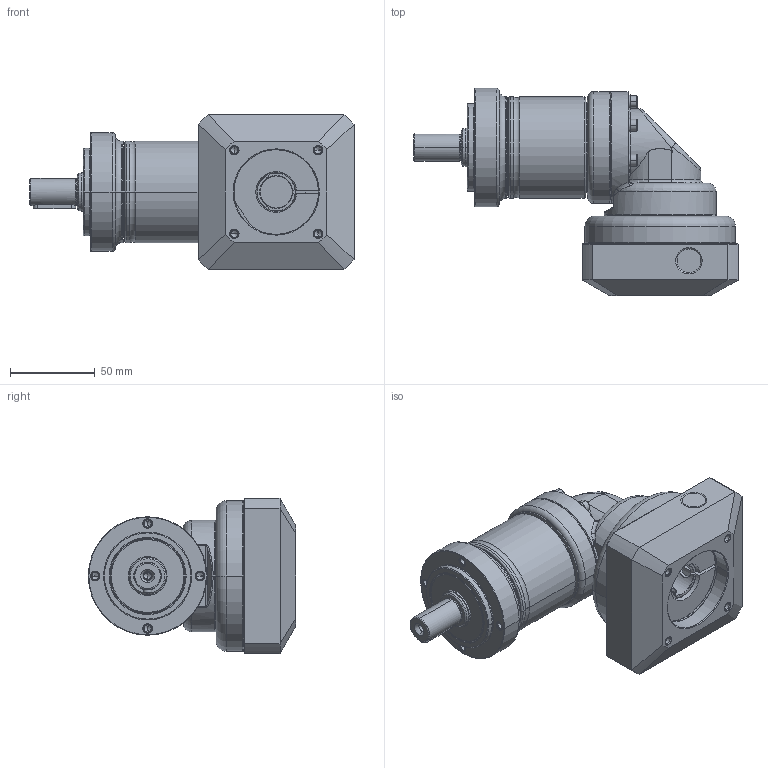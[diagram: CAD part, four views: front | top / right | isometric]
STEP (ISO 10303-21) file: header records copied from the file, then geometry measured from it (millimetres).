
FILE_DESCRIPTION((''),'2;1');
FILE_NAME('PE2R-070_2ST_19-P0411400101_ASM','2016-05-20T',('d00435'),(''),'PRO/ENGINEER BY PARAMETRIC TECHNOLOGY CORPORATION, 2008410','PRO/ENGINEER BY PARAMETRIC TECHNOLOGY CORPORATION, 2008410','');
FILE_SCHEMA(('CONFIG_CONTROL_DESIGN'));
Length unit declared in the file: millimetre
Products named in the file (12): P1323210001; P0251200001; P0350201001; P1349200001; P1017200001; P0713203001; P0503400008; P1350200301; P0411400101; P1702500001; 2111B104020; PE2R-070_2ST_19-P0411400101_ASM
Assembly tree (16 placements, depth 2):
  PE2R-070_2ST_19-P0411400101_ASM
    P1323210001
    P0251200001
    P0350201001
    P1349200001
    P1017200001
    P0713203001
    P0503400008
    P1350200301
    P0411400101
    P1702500001
    2111B104020  x6
Bounding box: 191.5 x 122.5 x 92 mm (x, y, z)
Volume: 565872.9 mm3; surface area: 152628.9 mm2
Topology: 16 solids, 32 shells, 852 faces, 1888 edges, 1113 vertices
Faces by surface type: cylinder 279, cone 224, plane 211, torus 106, bspline 32
Entity records: 25117 total; most frequent: CARTESIAN_POINT 9468, DIRECTION 3530, ORIENTED_EDGE 2944, AXIS2_PLACEMENT_3D 1505, EDGE_CURVE 1504, VERTEX_POINT 913, CIRCLE 812, EDGE_LOOP 791
